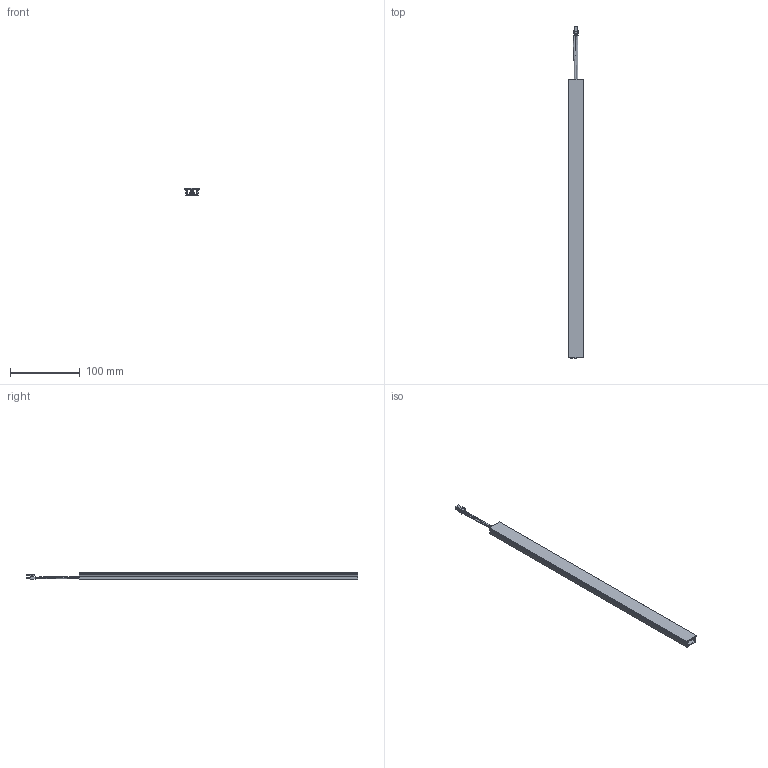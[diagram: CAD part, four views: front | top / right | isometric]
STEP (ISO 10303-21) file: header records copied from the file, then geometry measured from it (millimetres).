
FILE_DESCRIPTION (( 'STEP AP214' ), '1' );
FILE_NAME ('MinighostCompleto 1.STEP', '2022-02-18T10:20:32', ( '' ), ( '' ), 'SwSTEP 2.0', 'SolidWorks 2021', '' );
FILE_SCHEMA (( 'AUTOMOTIVE_DESIGN' ));
Length unit declared in the file: millimetre
Products named in the file (1): MinighostCompleto 1
Bounding box: 21.5 x 476.51 x 10.86 mm (x, y, z)
Surface area: 58764.1 mm2 (no closed solid volume)
Topology: 0 solids, 5 shells, 270 faces, 744 edges, 480 vertices
Faces by surface type: plane 182, cylinder 68, bspline 17, sphere 3
Entity records: 15862 total; most frequent: CARTESIAN_POINT 5991, ORIENTED_EDGE 1480, DIRECTION 1350, EDGE_CURVE 740, VECTOR 570, LINE 570, VERTEX_POINT 480, AXIS2_PLACEMENT_3D 390
